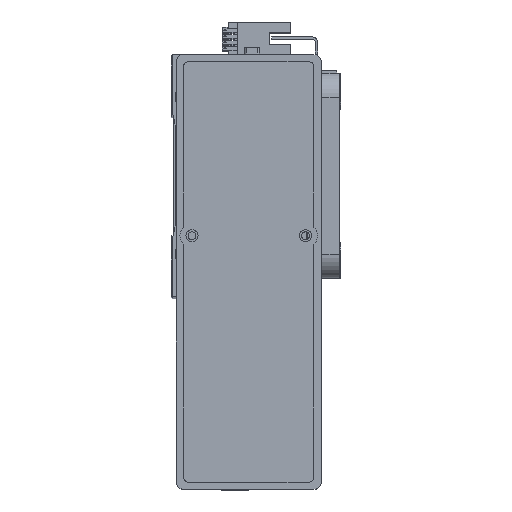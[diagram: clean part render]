
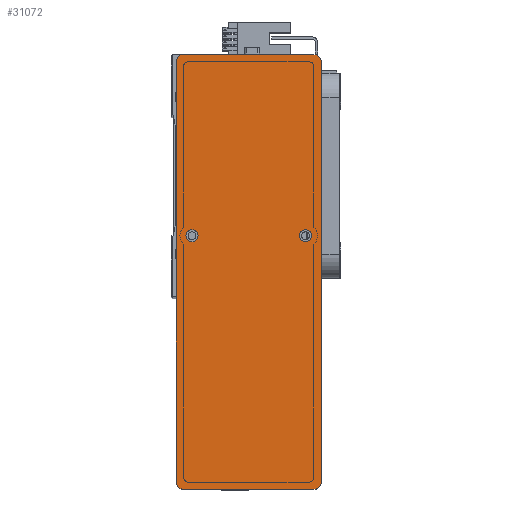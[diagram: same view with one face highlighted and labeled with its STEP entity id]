
A CAD part, top view. The second image highlights one B-rep face of the part: STEP entity #31072.
In plain terms, the highlighted planar face has unit normal (0, 0, 1) as drawn and (0, 0, -1) by its records, which use the part's own axes.
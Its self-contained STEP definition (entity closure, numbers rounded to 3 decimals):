
#452 = VECTOR ( 'NONE', #32131, 1000. ) ;
#472 = DIRECTION ( 'NONE',  ( 0., 0., -1. ) ) ;
#602 = CIRCLE ( 'NONE', #23380, 3. ) ;
#745 = EDGE_CURVE ( 'NONE', #45221, #7243, #50172, .T. ) ;
#764 = CARTESIAN_POINT ( 'NONE',  ( -87., 27., 0. ) ) ;
#1331 = CIRCLE ( 'NONE', #10734, 2.5 ) ;
#1379 = DIRECTION ( 'NONE',  ( 0., 0., -1. ) ) ;
#1719 = FACE_BOUND ( 'NONE', #39560, .T. ) ;
#2210 = DIRECTION ( 'NONE',  ( 0., 1., 0. ) ) ;
#3799 = VERTEX_POINT ( 'NONE', #12001 ) ;
#4662 = VERTEX_POINT ( 'NONE', #10597 ) ;
#4925 = EDGE_CURVE ( 'NONE', #16522, #7382, #21421, .T. ) ;
#5070 = DIRECTION ( 'NONE',  ( 1., 0., 0. ) ) ;
#5071 = ORIENTED_EDGE ( 'NONE', *, *, #11931, .T. ) ;
#5228 = VECTOR ( 'NONE', #2210, 1000. ) ;
#5604 = LINE ( 'NONE', #35502, #38622 ) ;
#6703 = AXIS2_PLACEMENT_3D ( 'NONE', #27162, #1379, #31494 ) ;
#6985 = CARTESIAN_POINT ( 'NONE',  ( -15., -23.5, 0. ) ) ;
#7243 = VERTEX_POINT ( 'NONE', #45772 ) ;
#7382 = VERTEX_POINT ( 'NONE', #28127 ) ;
#10597 = CARTESIAN_POINT ( 'NONE',  ( -90., -27., 0. ) ) ;
#10734 = AXIS2_PLACEMENT_3D ( 'NONE', #6985, #37103, #11315 ) ;
#10991 = AXIS2_PLACEMENT_3D ( 'NONE', #37678, #11885, #42047 ) ;
#11315 = DIRECTION ( 'NONE',  ( -1., 0., 0. ) ) ;
#11766 = AXIS2_PLACEMENT_3D ( 'NONE', #20683, #50842, #25006 ) ;
#11885 = DIRECTION ( 'NONE',  ( 0., 0., -1. ) ) ;
#11931 = EDGE_CURVE ( 'NONE', #33203, #3799, #14548, .T. ) ;
#12001 = CARTESIAN_POINT ( 'NONE',  ( 90., 27., 0. ) ) ;
#12191 = EDGE_CURVE ( 'NONE', #52731, #14619, #47557, .T. ) ;
#12436 = ORIENTED_EDGE ( 'NONE', *, *, #44307, .F. ) ;
#12693 = EDGE_CURVE ( 'NONE', #45221, #4662, #35986, .T. ) ;
#12741 = DIRECTION ( 'NONE',  ( 0., 0., -1. ) ) ;
#13178 = FACE_BOUND ( 'NONE', #51023, .T. ) ;
#13807 = EDGE_CURVE ( 'NONE', #29294, #21635, #1331, .T. ) ;
#14493 = EDGE_LOOP ( 'NONE', ( #38824, #41514, #14667, #21060, #21731, #42354, #26686, #5071 ) ) ;
#14548 = CIRCLE ( 'NONE', #10991, 3. ) ;
#14619 = VERTEX_POINT ( 'NONE', #30606 ) ;
#14667 = ORIENTED_EDGE ( 'NONE', *, *, #745, .F. ) ;
#15659 = PLANE ( 'NONE',  #28507 ) ;
#15833 = DIRECTION ( 'NONE',  ( 1., 0., 0. ) ) ;
#16522 = VERTEX_POINT ( 'NONE', #24022 ) ;
#16924 = CARTESIAN_POINT ( 'NONE',  ( -87., -30., 0. ) ) ;
#18115 = EDGE_CURVE ( 'NONE', #33203, #14619, #34793, .T. ) ;
#19275 = EDGE_CURVE ( 'NONE', #7382, #16522, #25738, .T. ) ;
#20683 = CARTESIAN_POINT ( 'NONE',  ( -15., 23.5, 0. ) ) ;
#21060 = ORIENTED_EDGE ( 'NONE', *, *, #12693, .T. ) ;
#21410 = CARTESIAN_POINT ( 'NONE',  ( -90., 27., 0. ) ) ;
#21421 = CIRCLE ( 'NONE', #37789, 2.5 ) ;
#21635 = VERTEX_POINT ( 'NONE', #45073 ) ;
#21731 = ORIENTED_EDGE ( 'NONE', *, *, #49768, .F. ) ;
#21799 = DIRECTION ( 'NONE',  ( 0., 0., -1. ) ) ;
#23380 = AXIS2_PLACEMENT_3D ( 'NONE', #38541, #12741, #42908 ) ;
#23850 = CARTESIAN_POINT ( 'NONE',  ( 90., -30., 0. ) ) ;
#24022 = CARTESIAN_POINT ( 'NONE',  ( -17.5, 23.5, 0. ) ) ;
#25006 = DIRECTION ( 'NONE',  ( -1., 0., 0. ) ) ;
#25738 = CIRCLE ( 'NONE', #11766, 2.5 ) ;
#26237 = CARTESIAN_POINT ( 'NONE',  ( -15., -23.5, 0. ) ) ;
#26686 = ORIENTED_EDGE ( 'NONE', *, *, #18115, .F. ) ;
#27162 = CARTESIAN_POINT ( 'NONE',  ( -87., -27., 0. ) ) ;
#28127 = CARTESIAN_POINT ( 'NONE',  ( -12.5, 23.5, 0. ) ) ;
#28507 = AXIS2_PLACEMENT_3D ( 'NONE', #28668, #41661, #15833 ) ;
#28668 = CARTESIAN_POINT ( 'NONE',  ( 0., 0., 0. ) ) ;
#29294 = VERTEX_POINT ( 'NONE', #50126 ) ;
#30204 = EDGE_CURVE ( 'NONE', #37754, #7243, #602, .T. ) ;
#30597 = DIRECTION ( 'NONE',  ( -1., 0., 0. ) ) ;
#30606 = CARTESIAN_POINT ( 'NONE',  ( -87., 30., 0. ) ) ;
#30883 = DIRECTION ( 'NONE',  ( 0., 0., -1. ) ) ;
#30920 = ORIENTED_EDGE ( 'NONE', *, *, #13807, .F. ) ;
#31072 = ADVANCED_FACE ( 'NONE', ( #13178, #1719, #37435 ), #15659, .F. ) ;
#31415 = CARTESIAN_POINT ( 'NONE',  ( 90., -27., 0. ) ) ;
#31494 = DIRECTION ( 'NONE',  ( 1., 0., 0. ) ) ;
#32131 = DIRECTION ( 'NONE',  ( -1., 0., 0. ) ) ;
#32997 = EDGE_CURVE ( 'NONE', #37754, #3799, #38249, .T. ) ;
#33203 = VERTEX_POINT ( 'NONE', #46438 ) ;
#34176 = ORIENTED_EDGE ( 'NONE', *, *, #19275, .F. ) ;
#34793 = LINE ( 'NONE', #53666, #452 ) ;
#35502 = CARTESIAN_POINT ( 'NONE',  ( -90., -30., 0. ) ) ;
#35905 = AXIS2_PLACEMENT_3D ( 'NONE', #764, #30883, #5070 ) ;
#35986 = CIRCLE ( 'NONE', #6703, 3. ) ;
#37103 = DIRECTION ( 'NONE',  ( 0., 0., -1. ) ) ;
#37327 = VECTOR ( 'NONE', #53294, 1000. ) ;
#37435 = FACE_OUTER_BOUND ( 'NONE', #14493, .T. ) ;
#37678 = CARTESIAN_POINT ( 'NONE',  ( 87., 27., 0. ) ) ;
#37754 = VERTEX_POINT ( 'NONE', #31415 ) ;
#37789 = AXIS2_PLACEMENT_3D ( 'NONE', #47637, #21799, #51969 ) ;
#38249 = LINE ( 'NONE', #23850, #5228 ) ;
#38541 = CARTESIAN_POINT ( 'NONE',  ( 87., -27., 0. ) ) ;
#38622 = VECTOR ( 'NONE', #39791, 1000. ) ;
#38824 = ORIENTED_EDGE ( 'NONE', *, *, #32997, .F. ) ;
#39560 = EDGE_LOOP ( 'NONE', ( #30920, #12436 ) ) ;
#39791 = DIRECTION ( 'NONE',  ( 0., -1., 0. ) ) ;
#39868 = CIRCLE ( 'NONE', #47609, 2.5 ) ;
#41514 = ORIENTED_EDGE ( 'NONE', *, *, #30204, .T. ) ;
#41661 = DIRECTION ( 'NONE',  ( 0., 0., 1. ) ) ;
#42047 = DIRECTION ( 'NONE',  ( 1., 0., 0. ) ) ;
#42354 = ORIENTED_EDGE ( 'NONE', *, *, #12191, .T. ) ;
#42908 = DIRECTION ( 'NONE',  ( 1., 0., 0. ) ) ;
#44307 = EDGE_CURVE ( 'NONE', #21635, #29294, #39868, .T. ) ;
#45073 = CARTESIAN_POINT ( 'NONE',  ( -12.5, -23.5, 0. ) ) ;
#45221 = VERTEX_POINT ( 'NONE', #16924 ) ;
#45772 = CARTESIAN_POINT ( 'NONE',  ( 87., -30., 0. ) ) ;
#46288 = ORIENTED_EDGE ( 'NONE', *, *, #4925, .F. ) ;
#46438 = CARTESIAN_POINT ( 'NONE',  ( 87., 30., 0. ) ) ;
#47557 = CIRCLE ( 'NONE', #35905, 3. ) ;
#47609 = AXIS2_PLACEMENT_3D ( 'NONE', #26237, #472, #30597 ) ;
#47637 = CARTESIAN_POINT ( 'NONE',  ( -15., 23.5, 0. ) ) ;
#49129 = CARTESIAN_POINT ( 'NONE',  ( 90., -30., 0. ) ) ;
#49768 = EDGE_CURVE ( 'NONE', #52731, #4662, #5604, .T. ) ;
#50126 = CARTESIAN_POINT ( 'NONE',  ( -17.5, -23.5, 0. ) ) ;
#50172 = LINE ( 'NONE', #49129, #37327 ) ;
#50842 = DIRECTION ( 'NONE',  ( 0., 0., -1. ) ) ;
#51023 = EDGE_LOOP ( 'NONE', ( #46288, #34176 ) ) ;
#51969 = DIRECTION ( 'NONE',  ( -1., 0., 0. ) ) ;
#52731 = VERTEX_POINT ( 'NONE', #21410 ) ;
#53294 = DIRECTION ( 'NONE',  ( 1., 0., 0. ) ) ;
#53666 = CARTESIAN_POINT ( 'NONE',  ( 90., 30., 0. ) ) ;
